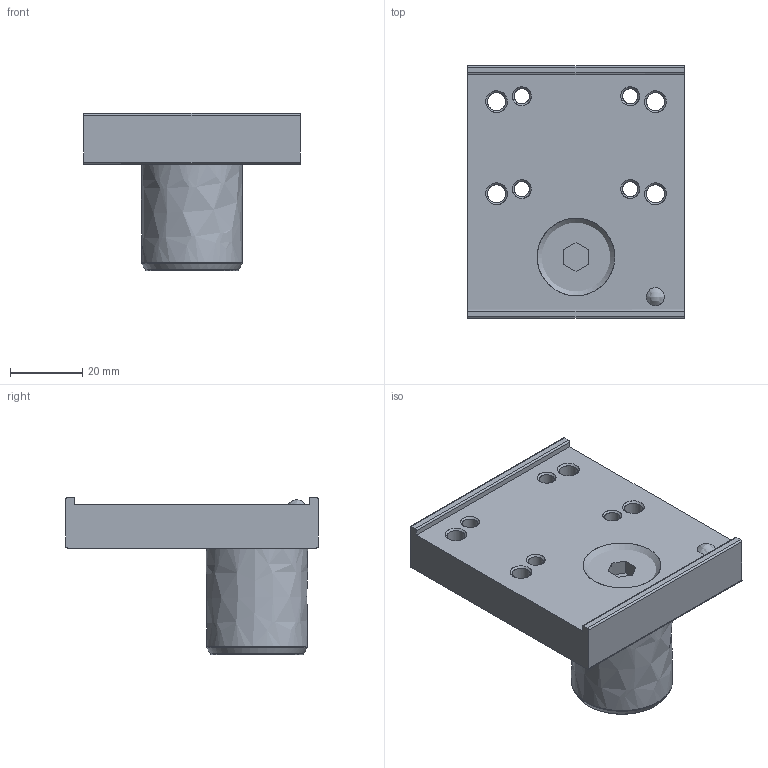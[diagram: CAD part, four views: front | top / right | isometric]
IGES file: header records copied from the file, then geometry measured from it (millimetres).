
Start section: ZWSOFT
Global section: file name: TW28A-STC.igs; native system: ZW3D; preprocessor: 1.0; author: ZW3D; organization: ZWSOFT; date: 140411.135627; units: millimetre
Bounding box: 60 x 70 x 43.5 mm (x, y, z)
Surface area: 19312.6 mm2 (no closed solid volume)
Topology: 0 solids, 0 shells, 77 faces, 423 edges, 338 vertices
Faces by surface type: bspline 77
